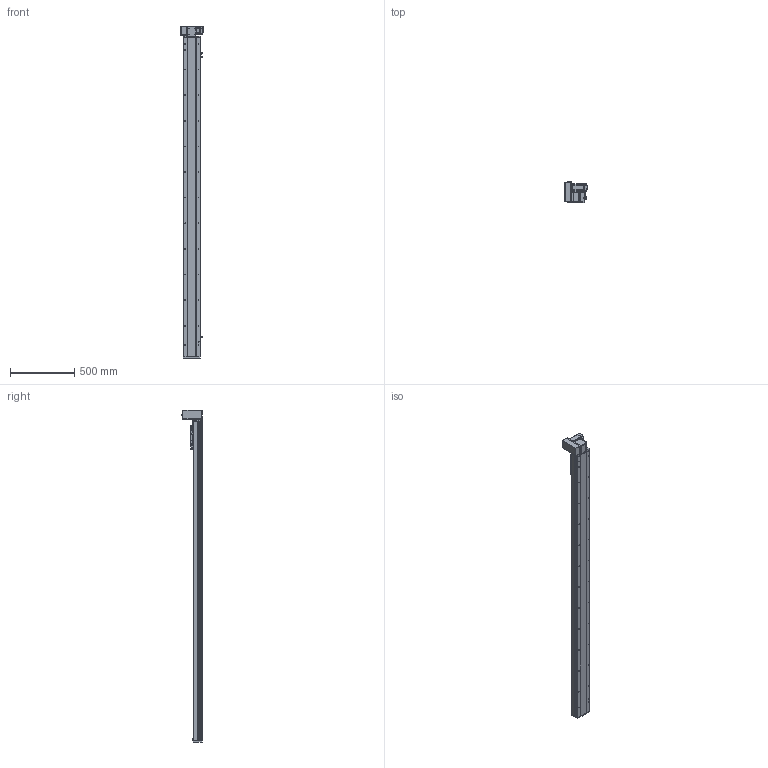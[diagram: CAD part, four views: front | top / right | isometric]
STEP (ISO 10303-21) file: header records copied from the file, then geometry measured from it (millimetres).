
FILE_DESCRIPTION (( 'STEP AP214' ), '1' );
FILE_NAME ('TPE14-L40-2200-LU-T40-C4.STEP', '2023-04-13T02:35:25', ( '' ), ( '' ), 'SwSTEP 2.0', 'SolidWorks 2020', '' );
FILE_SCHEMA (( 'AUTOMOTIVE_DESIGN' ));
Length unit declared in the file: millimetre
Products named in the file (10): 葩璃 侂狟400W^TPE14-L40-LU-T40-C4; TPE14-L40-2200-LU-T40-C4; 葩璃 TPE14-L-001 菁釱MZ-135-01^TPE14-L40-LU-T40-C4; 葩璃 TPE14 賑雄殤^TPE14-L40-LU-T40-C4; hexagon head bolts-full thread gb_GB_FASTENER_BOLT_STBAB A M5X16-N; 葩璃 pm-t65-672^TPE14-L40-LU-T40-C4; 葩璃 詩湍75^TPE14-L40-LU-T40-C4; 葩璃 TPT14-L-009 萇儂啣^TPE14-L40-LU-T40-C4_400W; 葩璃 TPE14-L-007 々湍釱MZ-169x88^TPE14-L40-LU-T40-C4_YCB14; 葩璃 TPE14-L-002 耜裔ZTMZ-135-04^TPE14-L40-LU-T40-C4
Assembly tree (12 placements, depth 2):
  TPE14-L40-2200-LU-T40-C4
    葩璃 TPE14-L-001 菁釱MZ-135-01^TPE14-L40-LU-T40-C4
    葩璃 TPE14-L-002 耜裔ZTMZ-135-04^TPE14-L40-LU-T40-C4  x2
    葩璃 詩湍75^TPE14-L40-LU-T40-C4
    葩璃 TPE14-L-007 々湍釱MZ-169x88^TPE14-L40-LU-T40-C4_YCB14
    葩璃 TPT14-L-009 萇儂啣^TPE14-L40-LU-T40-C4_400W
    葩璃 TPE14 賑雄殤^TPE14-L40-LU-T40-C4
    葩璃 pm-t65-672^TPE14-L40-LU-T40-C4  x3
    葩璃 侂狟400W^TPE14-L40-LU-T40-C4
    hexagon head bolts-full thread gb_GB_FASTENER_BOLT_STBAB A M5X16-N
Bounding box: 172.5 x 160.85 x 2590.5 mm (x, y, z)
Volume: 12872442 mm3; surface area: 2428105.9 mm2
Topology: 23 solids, 23 shells, 1460 faces, 3787 edges, 2390 vertices
Faces by surface type: plane 823, cylinder 445, cone 158, bspline 34
Entity records: 39107 total; most frequent: CARTESIAN_POINT 7558, DIRECTION 6248, ORIENTED_EDGE 6018, EDGE_CURVE 3009, AXIS2_PLACEMENT_3D 2134, LINE 1980, VECTOR 1980, VERTEX_POINT 1938
